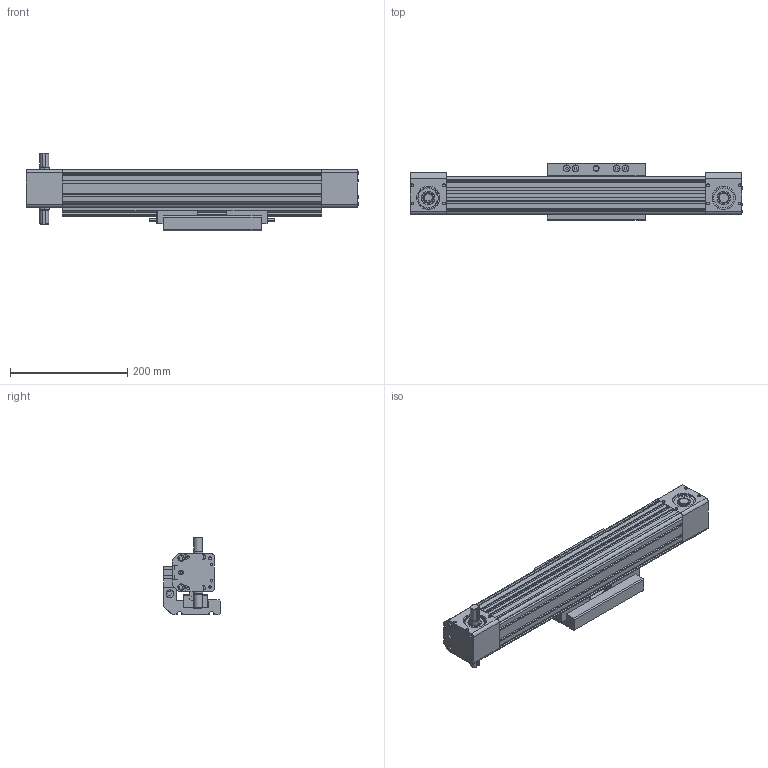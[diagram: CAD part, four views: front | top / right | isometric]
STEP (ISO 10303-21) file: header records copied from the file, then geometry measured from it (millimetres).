
FILE_DESCRIPTION((''),'2;1');
FILE_NAME('TCDH65-S200','2018-02-03T',('lenovo'),(''),'PRO/ENGINEER BY PARAMETRIC TECHNOLOGY CORPORATION, 2010280','PRO/ENGINEER BY PARAMETRIC TECHNOLOGY CORPORATION, 2010280','');
FILE_SCHEMA(('CONFIG_CONTROL_DESIGN'));
Products named in the file (1): TCDH65-S200
Bounding box: 566 x 96.5 x 132.5 mm (x, y, z)
Surface area: 559745.1 mm2 (no closed solid volume)
Topology: 0 solids, 42 shells, 2209 faces, 5857 edges, 3846 vertices
Faces by surface type: plane 1117, cylinder 810, cone 230, torus 52
Entity records: 69787 total; most frequent: CARTESIAN_POINT 13051, DIRECTION 12205, ORIENTED_EDGE 11638, EDGE_CURVE 5857, AXIS2_PLACEMENT_3D 4335, VERTEX_POINT 3846, VECTOR 3535, LINE 3535
